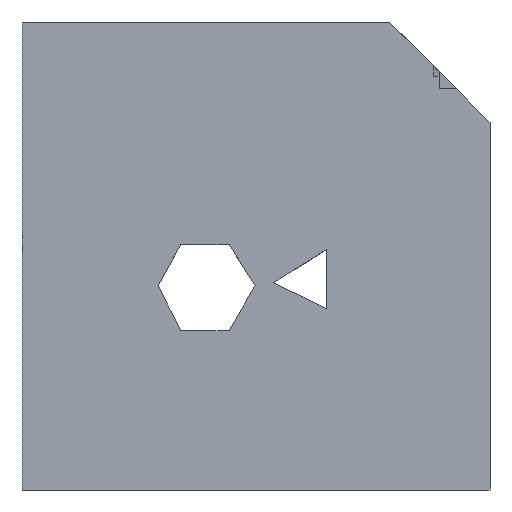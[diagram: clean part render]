
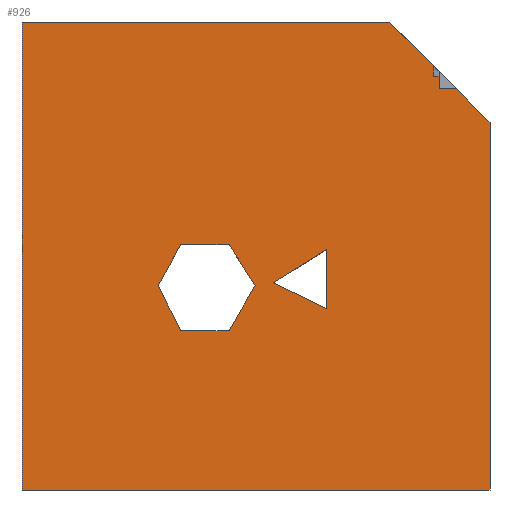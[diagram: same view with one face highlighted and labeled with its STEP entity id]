
A CAD part, front view. The second image highlights one B-rep face of the part: STEP entity #926.
In plain terms, the highlighted planar face has unit normal (0, -1, 0).
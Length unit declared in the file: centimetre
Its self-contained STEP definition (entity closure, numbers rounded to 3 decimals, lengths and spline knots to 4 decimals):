
#1 = LINE ( 'NONE', #572, #766 ) ;
#15 = EDGE_CURVE ( 'NONE', #320, #641, #584, .T. ) ;
#20 = CARTESIAN_POINT ( 'NONE',  ( 1000., 0., 0. ) ) ;
#31 = FACE_OUTER_BOUND ( 'NONE', #696, .T. ) ;
#34 = DIRECTION ( 'NONE',  ( -0.536, 0., 0.844 ) ) ;
#47 = CARTESIAN_POINT ( 'NONE',  ( 651.4895, 0., 513.9323 ) ) ;
#50 = DIRECTION ( 'NONE',  ( -0.9, 0., 0.436 ) ) ;
#54 = CARTESIAN_POINT ( 'NONE',  ( 928.4535, 0., 857.2002 ) ) ;
#59 = EDGE_LOOP ( 'NONE', ( #438, #713, #370 ) ) ;
#63 = CARTESIAN_POINT ( 'NONE',  ( 537.5534, 0., 442.8374 ) ) ;
#64 = ORIENTED_EDGE ( 'NONE', *, *, #104, .F. ) ;
#70 = EDGE_CURVE ( 'NONE', #708, #962, #588, .T. ) ;
#87 = VERTEX_POINT ( 'NONE', #263 ) ;
#88 = LINE ( 'NONE', #737, #288 ) ;
#101 = LINE ( 'NONE', #757, #239 ) ;
#104 = EDGE_CURVE ( 'NONE', #709, #1045, #88, .T. ) ;
#113 = LINE ( 'NONE', #428, #358 ) ;
#117 = CARTESIAN_POINT ( 'NONE',  ( 785.6537, 0., 1000. ) ) ;
#118 = ORIENTED_EDGE ( 'NONE', *, *, #990, .F. ) ;
#163 = LINE ( 'NONE', #820, #340 ) ;
#168 = CARTESIAN_POINT ( 'NONE',  ( 879.3294, 0., 884.3676 ) ) ;
#173 = EDGE_CURVE ( 'NONE', #644, #87, #267, .T. ) ;
#183 = CARTESIAN_POINT ( 'NONE',  ( 879.3294, 0., 884.3676 ) ) ;
#187 = DIRECTION ( 'NONE',  ( -1., 0., 0. ) ) ;
#193 = CARTESIAN_POINT ( 'NONE',  ( 891.1995, 0., 857.2002 ) ) ;
#198 = ORIENTED_EDGE ( 'NONE', *, *, #970, .F. ) ;
#205 = ORIENTED_EDGE ( 'NONE', *, *, #768, .F. ) ;
#208 = VECTOR ( 'NONE', #951, 100. ) ;
#221 = CARTESIAN_POINT ( 'NONE',  ( 0., 0., 0. ) ) ;
#224 = VECTOR ( 'NONE', #912, 100. ) ;
#228 = CARTESIAN_POINT ( 'NONE',  ( 291.133, 0., 436.7896 ) ) ;
#239 = VECTOR ( 'NONE', #748, 100. ) ;
#243 = EDGE_CURVE ( 'NONE', #483, #708, #522, .T. ) ;
#244 = LINE ( 'NONE', #168, #474 ) ;
#249 = DIRECTION ( 'NONE',  ( 0., 0., -1. ) ) ;
#263 = CARTESIAN_POINT ( 'NONE',  ( 651.4895, 0., 387.6842 ) ) ;
#264 = DIRECTION ( 'NONE',  ( 0., 1., 0. ) ) ;
#267 = LINE ( 'NONE', #849, #997 ) ;
#276 = LINE ( 'NONE', #816, #841 ) ;
#288 = VECTOR ( 'NONE', #1003, 100. ) ;
#289 = VECTOR ( 'NONE', #823, 100. ) ;
#297 = CARTESIAN_POINT ( 'NONE',  ( 442.5375, 0., 524.203 ) ) ;
#299 = VERTEX_POINT ( 'NONE', #470 ) ;
#320 = VERTEX_POINT ( 'NONE', #297 ) ;
#328 = DIRECTION ( 'NONE',  ( -0.707, 0., 0.707 ) ) ;
#338 = FACE_BOUND ( 'NONE', #59, .T. ) ;
#339 = DIRECTION ( 'NONE',  ( 1., 0., 0. ) ) ;
#340 = VECTOR ( 'NONE', #339, 100. ) ;
#341 = VERTEX_POINT ( 'NONE', #466 ) ;
#343 = LINE ( 'NONE', #347, #373 ) ;
#347 = CARTESIAN_POINT ( 'NONE',  ( 339.0976, 0., 524.203 ) ) ;
#358 = VECTOR ( 'NONE', #693, 100. ) ;
#364 = VERTEX_POINT ( 'NONE', #719 ) ;
#370 = ORIENTED_EDGE ( 'NONE', *, *, #173, .T. ) ;
#373 = VECTOR ( 'NONE', #504, 100. ) ;
#382 = VERTEX_POINT ( 'NONE', #54 ) ;
#393 = ORIENTED_EDGE ( 'NONE', *, *, #536, .F. ) ;
#403 = ORIENTED_EDGE ( 'NONE', *, *, #493, .T. ) ;
#419 = LINE ( 'NONE', #658, #1048 ) ;
#428 = CARTESIAN_POINT ( 'NONE',  ( 1000., 0., 1000. ) ) ;
#438 = ORIENTED_EDGE ( 'NONE', *, *, #655, .T. ) ;
#456 = VECTOR ( 'NONE', #50, 100. ) ;
#457 = VERTEX_POINT ( 'NONE', #20 ) ;
#462 = EDGE_CURVE ( 'NONE', #854, #382, #494, .T. ) ;
#466 = CARTESIAN_POINT ( 'NONE',  ( 0., 0., 0. ) ) ;
#470 = CARTESIAN_POINT ( 'NONE',  ( 0., 0., 1000. ) ) ;
#472 = EDGE_CURVE ( 'NONE', #364, #709, #163, .T. ) ;
#473 = LINE ( 'NONE', #492, #289 ) ;
#474 = VECTOR ( 'NONE', #832, 100. ) ;
#481 = CARTESIAN_POINT ( 'NONE',  ( 891.1995, 0., 884.3676 ) ) ;
#483 = VERTEX_POINT ( 'NONE', #183 ) ;
#492 = CARTESIAN_POINT ( 'NONE',  ( 0., 0., 1000. ) ) ;
#493 = EDGE_CURVE ( 'NONE', #483, #865, #244, .T. ) ;
#494 = LINE ( 'NONE', #660, #698 ) ;
#503 = EDGE_CURVE ( 'NONE', #623, #644, #685, .T. ) ;
#504 = DIRECTION ( 'NONE',  ( -0.481, 0., -0.877 ) ) ;
#508 = LINE ( 'NONE', #193, #224 ) ;
#521 = ORIENTED_EDGE ( 'NONE', *, *, #954, .F. ) ;
#522 = LINE ( 'NONE', #597, #208 ) ;
#532 = DIRECTION ( 'NONE',  ( 0., 0., -1. ) ) ;
#535 = ORIENTED_EDGE ( 'NONE', *, *, #586, .T. ) ;
#536 = EDGE_CURVE ( 'NONE', #788, #364, #276, .T. ) ;
#537 = ORIENTED_EDGE ( 'NONE', *, *, #70, .F. ) ;
#572 = CARTESIAN_POINT ( 'NONE',  ( 785.6537, 0., 1000. ) ) ;
#584 = LINE ( 'NONE', #747, #596 ) ;
#585 = PLANE ( 'NONE',  #896 ) ;
#586 = EDGE_CURVE ( 'NONE', #341, #457, #958, .T. ) ;
#588 = LINE ( 'NONE', #904, #679 ) ;
#595 = CARTESIAN_POINT ( 'NONE',  ( 1000., 0., 785.6537 ) ) ;
#596 = VECTOR ( 'NONE', #187, 100. ) ;
#597 = CARTESIAN_POINT ( 'NONE',  ( 879.3294, 0., 884.3676 ) ) ;
#613 = LINE ( 'NONE', #949, #456 ) ;
#623 = VERTEX_POINT ( 'NONE', #63 ) ;
#641 = VERTEX_POINT ( 'NONE', #776 ) ;
#644 = VERTEX_POINT ( 'NONE', #47 ) ;
#655 = EDGE_CURVE ( 'NONE', #87, #623, #613, .T. ) ;
#658 = CARTESIAN_POINT ( 'NONE',  ( 498.0126, 0., 436.7896 ) ) ;
#660 = CARTESIAN_POINT ( 'NONE',  ( 785.6537, 0., 1000. ) ) ;
#669 = CARTESIAN_POINT ( 'NONE',  ( 879.3294, 0., 906.3243 ) ) ;
#670 = ORIENTED_EDGE ( 'NONE', *, *, #866, .T. ) ;
#679 = VECTOR ( 'NONE', #249, 100. ) ;
#685 = LINE ( 'NONE', #736, #783 ) ;
#693 = DIRECTION ( 'NONE',  ( 0., 0., -1. ) ) ;
#696 = EDGE_LOOP ( 'NONE', ( #521, #537, #797, #403, #1000, #205, #670, #535, #118, #750 ) ) ;
#698 = VECTOR ( 'NONE', #763, 100. ) ;
#708 = VERTEX_POINT ( 'NONE', #481 ) ;
#709 = VERTEX_POINT ( 'NONE', #971 ) ;
#713 = ORIENTED_EDGE ( 'NONE', *, *, #503, .T. ) ;
#719 = CARTESIAN_POINT ( 'NONE',  ( 339.0976, 0., 340.7038 ) ) ;
#730 = ORIENTED_EDGE ( 'NONE', *, *, #15, .F. ) ;
#736 = CARTESIAN_POINT ( 'NONE',  ( 651.4895, 0., 513.9323 ) ) ;
#737 = CARTESIAN_POINT ( 'NONE',  ( 442.5375, 0., 340.7038 ) ) ;
#746 = EDGE_CURVE ( 'NONE', #865, #837, #1, .T. ) ;
#747 = CARTESIAN_POINT ( 'NONE',  ( 442.5375, 0., 524.203 ) ) ;
#748 = DIRECTION ( 'NONE',  ( 0., 0., -1. ) ) ;
#750 = ORIENTED_EDGE ( 'NONE', *, *, #462, .T. ) ;
#755 = FACE_BOUND ( 'NONE', #794, .T. ) ;
#757 = CARTESIAN_POINT ( 'NONE',  ( 0., 0., 1000. ) ) ;
#763 = DIRECTION ( 'NONE',  ( -0.707, 0., 0.707 ) ) ;
#766 = VECTOR ( 'NONE', #328, 100. ) ;
#768 = EDGE_CURVE ( 'NONE', #299, #837, #473, .T. ) ;
#776 = CARTESIAN_POINT ( 'NONE',  ( 339.0976, 0., 524.203 ) ) ;
#783 = VECTOR ( 'NONE', #1016, 100. ) ;
#788 = VERTEX_POINT ( 'NONE', #228 ) ;
#794 = EDGE_LOOP ( 'NONE', ( #858, #64, #817, #393, #198, #730 ) ) ;
#797 = ORIENTED_EDGE ( 'NONE', *, *, #243, .F. ) ;
#816 = CARTESIAN_POINT ( 'NONE',  ( 291.133, 0., 436.7896 ) ) ;
#817 = ORIENTED_EDGE ( 'NONE', *, *, #472, .F. ) ;
#820 = CARTESIAN_POINT ( 'NONE',  ( 339.0976, 0., 340.7038 ) ) ;
#823 = DIRECTION ( 'NONE',  ( 1., 0., 0. ) ) ;
#829 = DIRECTION ( 'NONE',  ( 0.447, 0., -0.895 ) ) ;
#832 = DIRECTION ( 'NONE',  ( 0., 0., 1. ) ) ;
#837 = VERTEX_POINT ( 'NONE', #117 ) ;
#840 = EDGE_CURVE ( 'NONE', #1045, #320, #419, .T. ) ;
#841 = VECTOR ( 'NONE', #829, 100. ) ;
#849 = CARTESIAN_POINT ( 'NONE',  ( 651.4895, 0., 387.6842 ) ) ;
#854 = VERTEX_POINT ( 'NONE', #595 ) ;
#858 = ORIENTED_EDGE ( 'NONE', *, *, #840, .F. ) ;
#865 = VERTEX_POINT ( 'NONE', #669 ) ;
#866 = EDGE_CURVE ( 'NONE', #299, #341, #101, .T. ) ;
#882 = DIRECTION ( 'NONE',  ( 1., 0., 0. ) ) ;
#896 = AXIS2_PLACEMENT_3D ( 'NONE', #932, #264, #925 ) ;
#904 = CARTESIAN_POINT ( 'NONE',  ( 891.1995, 0., 857.2002 ) ) ;
#912 = DIRECTION ( 'NONE',  ( 1., 0., 0. ) ) ;
#914 = VECTOR ( 'NONE', #882, 100. ) ;
#922 = CARTESIAN_POINT ( 'NONE',  ( 891.1995, 0., 857.2002 ) ) ;
#925 = DIRECTION ( 'NONE',  ( 0., 0., 1. ) ) ;
#926 = ADVANCED_FACE ( 'NONE', ( #338, #755, #31 ), #585, .F. ) ;
#932 = CARTESIAN_POINT ( 'NONE',  ( 0., 0., 1000. ) ) ;
#949 = CARTESIAN_POINT ( 'NONE',  ( 537.5534, 0., 442.8374 ) ) ;
#951 = DIRECTION ( 'NONE',  ( 1., 0., 0. ) ) ;
#954 = EDGE_CURVE ( 'NONE', #962, #382, #508, .T. ) ;
#957 = CARTESIAN_POINT ( 'NONE',  ( 498.0126, 0., 436.7896 ) ) ;
#958 = LINE ( 'NONE', #221, #914 ) ;
#962 = VERTEX_POINT ( 'NONE', #922 ) ;
#970 = EDGE_CURVE ( 'NONE', #641, #788, #343, .T. ) ;
#971 = CARTESIAN_POINT ( 'NONE',  ( 442.5375, 0., 340.7038 ) ) ;
#990 = EDGE_CURVE ( 'NONE', #854, #457, #113, .T. ) ;
#997 = VECTOR ( 'NONE', #532, 100. ) ;
#1000 = ORIENTED_EDGE ( 'NONE', *, *, #746, .T. ) ;
#1003 = DIRECTION ( 'NONE',  ( 0.5, 0., 0.866 ) ) ;
#1016 = DIRECTION ( 'NONE',  ( 0.848, 0., 0.529 ) ) ;
#1045 = VERTEX_POINT ( 'NONE', #957 ) ;
#1048 = VECTOR ( 'NONE', #34, 100. ) ;
